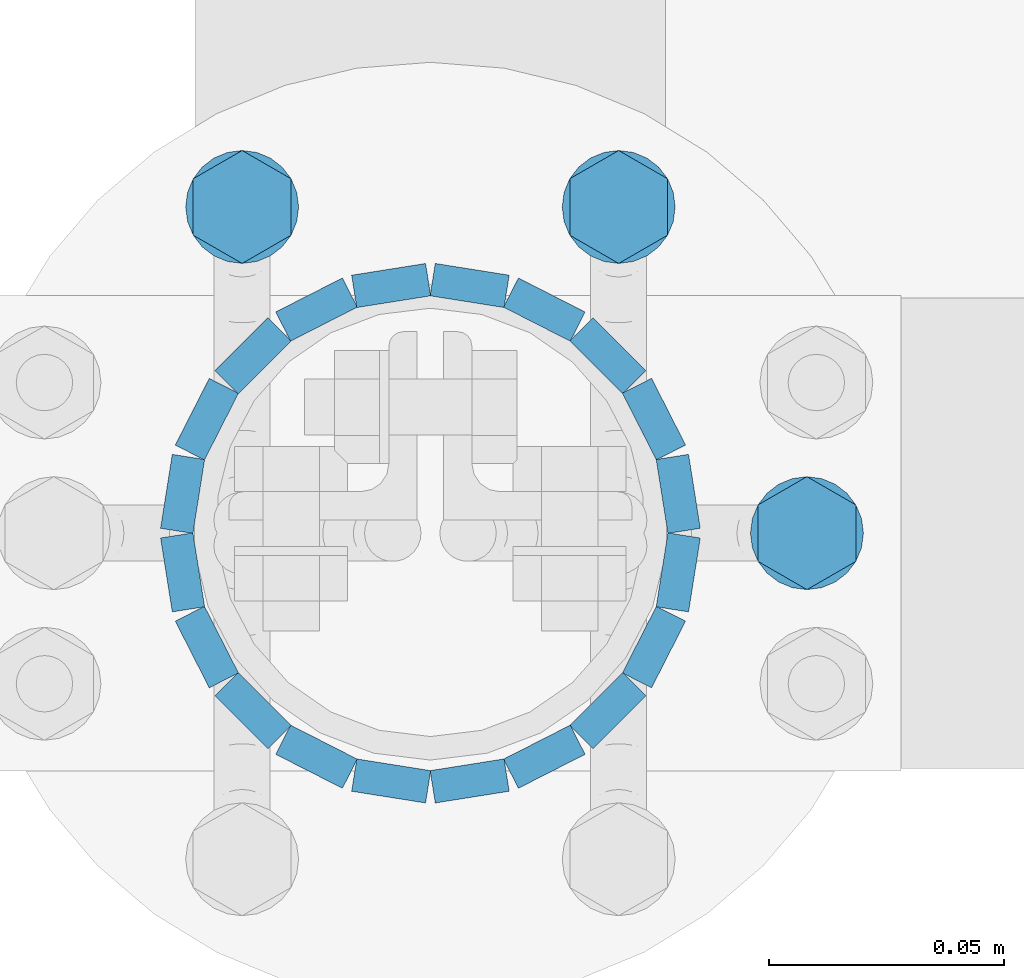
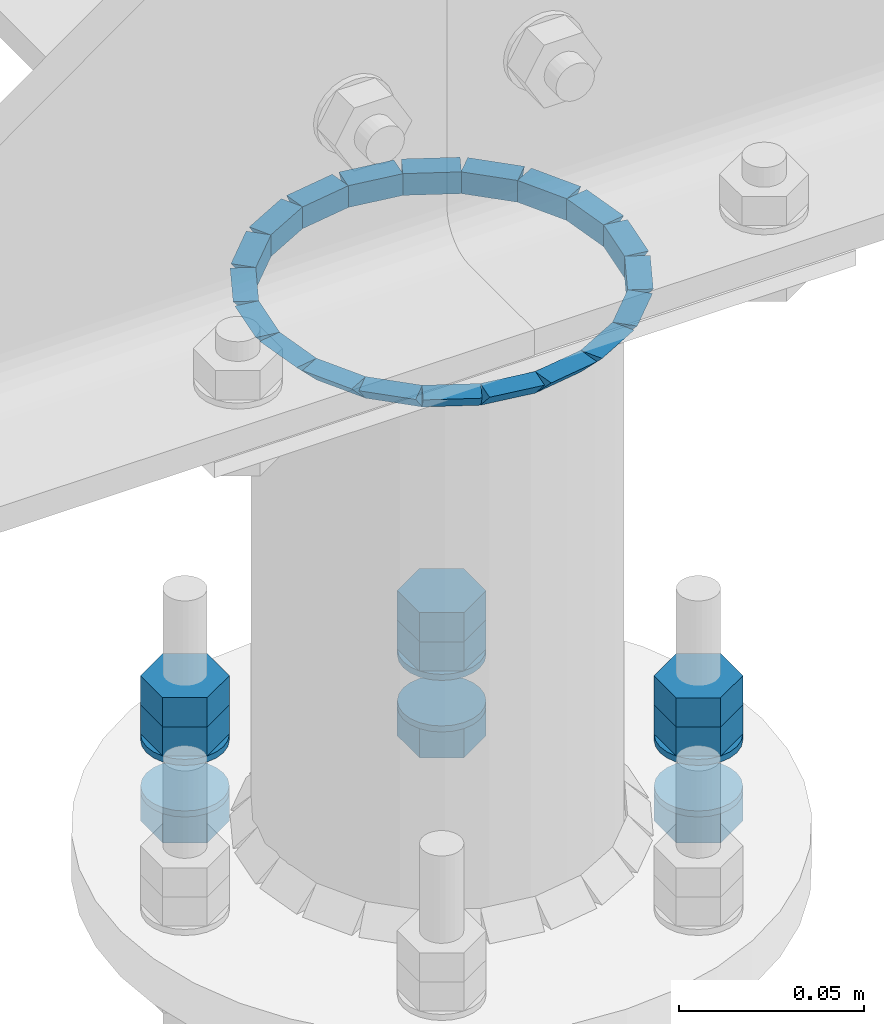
# One storey, part 41 of 84: 40 fasteners, 15 mechanical fasteners.
"""IFC4 building model written with IfcOpenShell, lengths in metres."""

import ifcopenshell
import ifcopenshell.guid

model = None  # the IFC model being written
_history = None  # IfcOwnerHistory: only IFC2X3 demands one
_inside = {}  # id of a spatial element -> (the spatial element, [elements in it])
_under = {}  # id of a project, library or spatial element -> (it, [spatial elements below it])
_declared = {}  # id of a project -> (the project, [libraries it declares])
_typed = {}  # id of a type object -> (the type object, [elements of that type])
_made_of = {}  # id of a material, layer set ... -> (it, [elements and type objects made of it])


def new_model(schema):
    """Start an empty IFC model of exactly this schema.

    Asked for "IFC4X3", IfcOpenShell would pick the latest addendum, in which some entities
    have other attributes; the version numbers below select the first issue.
    IFC2X3 requires an IfcOwnerHistory on every rooted entity: one is made here for all.
    """
    global model, _history
    if schema == "IFC4X3":
        model = ifcopenshell.file(schema_version=(4, 3, 0, 0))
    else:
        model = ifcopenshell.file(schema=schema)
    _inside.clear()
    _under.clear()
    _declared.clear()
    _typed.clear()
    _made_of.clear()
    _history = None
    if model.schema == "IFC2X3":
        org = make("IfcOrganization", Name="unknown")
        user = make(
            "IfcPersonAndOrganization",
            ThePerson=make("IfcPerson", FamilyName="unknown"),
            TheOrganization=org,
        )
        app = make(
            "IfcApplication",
            ApplicationDeveloper=org,
            Version="unknown",
            ApplicationFullName="unknown",
            ApplicationIdentifier="unknown",
        )
        _history = make(
            "IfcOwnerHistory",
            OwningUser=user,
            OwningApplication=app,
            ChangeAction="ADDED",
            CreationDate=0,
        )
    return model


def make(cls, **values):
    """One entity of the class cls with the attributes given. An attribute that is None is left unset."""
    return model.create_entity(
        cls, **{name: value for name, value in values.items() if value is not None}
    )


def rooted(cls, **values):
    """An entity with a GlobalId (a new one), such as an element, a storey or a relation."""
    return make(cls, GlobalId=ifcopenshell.guid.new(), OwnerHistory=_history, **values)


def si_unit(unit_type, name, prefix=None):
    """IfcSIUnit, for example si_unit("LENGTHUNIT", "METRE", prefix="MILLI")."""
    return make("IfcSIUnit", UnitType=unit_type, Prefix=prefix, Name=name)


def assignment(units):
    """IfcUnitAssignment: the units of a project."""
    return None if units is None else make("IfcUnitAssignment", Units=units)


def point(xyz):
    """IfcCartesianPoint."""
    return None if xyz is None else make("IfcCartesianPoint", Coordinates=xyz)


def direction(xyz):
    """IfcDirection."""
    return None if xyz is None else make("IfcDirection", DirectionRatios=xyz)


def frame(location, z_axis=None, x_axis=None):
    """IfcAxis2Placement3D, a coordinate frame: its origin and axes. An axis left out is left unset."""
    return make(
        "IfcAxis2Placement3D",
        Location=point(location),
        Axis=direction(z_axis),
        RefDirection=direction(x_axis),
    )


def origin_with_axes():
    """The frame at (0, 0, 0) with the z axis (0, 0, 1) and the x axis (1, 0, 0) written out."""
    return frame((0.0, 0.0, 0.0), z_axis=(0.0, 0.0, 1.0), x_axis=(1.0, 0.0, 0.0))


def place(relative_to, where):
    """IfcLocalPlacement: puts the frame where relative to a parent placement (None: the world)."""
    return make(
        "IfcLocalPlacement", PlacementRelTo=relative_to, RelativePlacement=where
    )


def context(
    kind, dimensions, precision=None, world=None, true_north=None, identifier=None
):
    """IfcGeometricRepresentationContext, for example the 3D "Model" context."""
    return make(
        "IfcGeometricRepresentationContext",
        ContextIdentifier=identifier,
        ContextType=kind,
        CoordinateSpaceDimension=dimensions,
        Precision=precision,
        WorldCoordinateSystem=world,
        TrueNorth=true_north,
    )


def project(units=None, contexts=None):
    """IfcProject with its units and contexts."""
    return rooted(
        "IfcProject",
        Name="project",
        RepresentationContexts=contexts,
        UnitsInContext=assignment(units),
    )


def spatial(cls, under=None, at=None, **own):
    """A site, building, storey or space (cls), placed at a placement, below another one or the project."""
    s = rooted(cls, ObjectPlacement=at, **own)
    if under is not None:
        _under.setdefault(under.id(), (under, []))[1].append(s)
    return s


def polyline(points):
    """IfcPolyline through the points."""
    return make("IfcPolyline", Points=[point(p) for p in points])


def outline(outer, holes=None, kind="AREA"):
    """IfcArbitraryClosedProfileDef: a profile drawn as a closed curve; with holes, ...WithVoids."""
    if holes is None:
        return make("IfcArbitraryClosedProfileDef", ProfileType=kind, OuterCurve=outer)
    return make(
        "IfcArbitraryProfileDefWithVoids",
        ProfileType=kind,
        OuterCurve=outer,
        InnerCurves=holes,
    )


def extrude(swept, where, along, depth):
    """IfcExtrudedAreaSolid: the profile swept, set in the frame where, extruded along a direction by depth."""
    return make(
        "IfcExtrudedAreaSolid",
        SweptArea=swept,
        Position=where,
        ExtrudedDirection=direction(along),
        Depth=depth,
    )


def shape(context_of_items, identifier, shape_type, items):
    """IfcShapeRepresentation: the items that make up one representation, for example the "Body"."""
    return make(
        "IfcShapeRepresentation",
        ContextOfItems=context_of_items,
        RepresentationIdentifier=identifier,
        RepresentationType=shape_type,
        Items=items,
    )


def made_of(thing, what):
    """Note that an element or type object is made of a material, layer set ...; save() writes the relation."""
    if what is not None:
        _made_of.setdefault(what.id(), (what, []))[1].append(thing)
    return thing


def type_object(cls, material=None, **own):
    """A type object (cls), such as IfcWallType, which elements share."""
    return made_of(rooted(cls, **own), material)


def element(
    cls,
    number,
    at=None,
    inside=None,
    cuts=None,
    type_object=None,
    material=None,
    context=None,
    identifier="Body",
    shape_type=None,
    held_by="IfcProductDefinitionShape",
    body=None,
    shapes=None,
    **own,
):
    """One element of the class cls, such as IfcWall. Its Tag is "e" and its number.

    at: its placement. inside: the storey or other place that contains it. cuts: it is an
    opening in that element (IfcRelVoidsElement). A single representation is given by context,
    identifier, shape_type and body (its items); several are given by shapes. held_by: the class
    of the entity that holds the representations. save() writes the other relations.
    """
    e = rooted(cls, Tag="e%d" % number, ObjectPlacement=at, **own)
    if body is not None:
        shapes = [shape(context, identifier, shape_type, body)]
    if shapes is not None:
        e.Representation = make(held_by, Representations=shapes)
    if inside is not None:
        _inside.setdefault(inside.id(), (inside, []))[1].append(e)
    if cuts is not None:
        rooted(
            "IfcRelVoidsElement", RelatingBuildingElement=cuts, RelatedOpeningElement=e
        )
    if type_object is not None:
        _typed.setdefault(type_object.id(), (type_object, []))[1].append(e)
    return made_of(e, material)


def aggregate(whole, parts):
    """IfcRelAggregates: a whole, such as a stair, and the parts it consists of."""
    return rooted("IfcRelAggregates", RelatingObject=whole, RelatedObjects=parts)


def save(model, path):
    """Write the relations noted so far, then the file.

    IfcRelAggregates (storeys below a building ...), IfcRelContainedInSpatialStructure (elements
    in a storey), IfcRelDefinesByType, IfcRelAssociatesMaterial and IfcRelDeclares: one each for
    every whole, place, type object, material and project.
    """
    for whole, parts in _under.values():
        aggregate(whole, parts)
    for where, things in _inside.values():
        rooted(
            "IfcRelContainedInSpatialStructure",
            RelatedElements=things,
            RelatingStructure=where,
        )
    for kind, things in _typed.values():
        rooted("IfcRelDefinesByType", RelatedObjects=things, RelatingType=kind)
    for what, things in _made_of.values():
        rooted("IfcRelAssociatesMaterial", RelatedObjects=things, RelatingMaterial=what)
    for by, libraries in _declared.values():
        rooted("IfcRelDeclares", RelatingContext=by, RelatedDefinitions=libraries)
    model.write(path)


model = new_model("IFC4")

# Units and contexts
model_context = context("Model", 3, precision=1e-05, world=origin_with_axes())
ifc_project = project(units=[si_unit("LENGTHUNIT", "METRE"), si_unit("AREAUNIT", "SQUARE_METRE"), si_unit("VOLUMEUNIT", "CUBIC_METRE"), si_unit("MASSUNIT", "GRAM", prefix="KILO"), si_unit("TIMEUNIT", "SECOND"), si_unit("PLANEANGLEUNIT", "RADIAN"), si_unit("SOLIDANGLEUNIT", "STERADIAN"), si_unit("THERMODYNAMICTEMPERATUREUNIT", "DEGREE_CELSIUS")], contexts=[model_context])

# Site, building, storey
placement_1 = place(None, origin_with_axes())
site = spatial("IfcSite", under=ifc_project, at=placement_1, Name="Italia", CompositionType="ELEMENT")
building = spatial("IfcBuilding", under=site, at=placement_1, Name="Tettoia", CompositionType="ELEMENT")
storey_placement = place(None, frame((0.0, 0.0, 4.199999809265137), z_axis=(0.0, 0.0, 1.0), x_axis=(1.0, 0.0, 0.0)))
storey = spatial("IfcBuildingStorey", under=building, at=storey_placement, Name="Storey 1", CompositionType="ELEMENT", Elevation=4.199999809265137)

# Mechanical fasteners
mechanical_fastener_type_1 = type_object("IfcMechanicalFastenerType", Name="Collegamento -007_0107", PredefinedType="BOLT")
placement_2 = place(placement_1, origin_with_axes())
mechanical_fastener_1_placement = place(placement_2, origin_with_axes())
element("IfcMechanicalFastener", 1, at=mechanical_fastener_1_placement, inside=storey, type_object=mechanical_fastener_type_1, Name="Collegamento -007_0107", NominalDiameter=0.0119991, context=model_context, shape_type="SweptSolid", body=[
    extrude(outline(polyline([(0.0, 0.0), (-0.0119991, 0.0), (-0.0179996, 0.0103923), (-0.0119991, 0.0207846), (0.0, 0.0207846), (0.00600052, 0.0103923), (0.0, 0.0)])), frame((0.190392, 9.976, 4.017), z_axis=(0.0, 0.0, 1.0), x_axis=(0.0, 1.0, 0.0)), (0.0, 0.0, 1.0), 0.00959969),
])
mechanical_fastener_type_2 = type_object("IfcMechanicalFastenerType", Name="Collegamento -007_0107", PredefinedType="BOLT")
mechanical_fastener_2_placement = place(placement_2, origin_with_axes())
element("IfcMechanicalFastener", 2, at=mechanical_fastener_2_placement, inside=storey, type_object=mechanical_fastener_type_2, Name="Collegamento -007_0107", NominalDiameter=0.0119991, context=model_context, shape_type="SweptSolid", body=[
    extrude(outline(polyline([(0.0, 0.0), (-0.0119991, 0.0), (-0.0179996, 0.0103923), (-0.0119991, 0.0207846), (0.0, 0.0207846), (0.00600052, 0.0103923), (0.0, 0.0)])), frame((0.190392, 9.976, 4.0266), z_axis=(0.0, 0.0, 1.0), x_axis=(0.0, 1.0, 0.0)), (0.0, 0.0, 1.0), 0.00960016),
])
mechanical_fastener_type_3 = type_object("IfcMechanicalFastenerType", Name="Collegamento -007_0107", PredefinedType="BOLT")
mechanical_fastener_3_placement = place(placement_2, origin_with_axes())
element("IfcMechanicalFastener", 3, at=mechanical_fastener_3_placement, inside=storey, type_object=mechanical_fastener_type_3, Name="Collegamento -007_0107", NominalDiameter=0.0119991, context=model_context, shape_type="SweptSolid", body=[
    extrude(outline(polyline([(0.0, 0.0), (-0.0119991, 0.0), (-0.0179996, 0.0103923), (-0.0119991, 0.0207846), (0.0, 0.0207846), (0.00600052, 0.0103923), (0.0, 0.0)])), frame((0.190392, 9.976, 3.9884), z_axis=(0.0, 0.0, 1.0), x_axis=(0.0, 1.0, 0.0)), (0.0, 0.0, 1.0), 0.00959992),
])
mechanical_fastener_type_4 = type_object("IfcMechanicalFastenerType", Name="Collegamento -007_0107", PredefinedType="BOLT")
mechanical_fastener_4_placement = place(placement_2, origin_with_axes())
element("IfcMechanicalFastener", 4, at=mechanical_fastener_4_placement, inside=storey, type_object=mechanical_fastener_type_4, Name="Collegamento -007_0107", NominalDiameter=0.024, context=model_context, shape_type="SweptSolid", body=[
    extrude(outline(polyline([(0.0, 0.0), (-0.000409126, -0.00310583), (-0.00160789, -0.006), (-0.00351524, -0.00848529), (-0.00600052, -0.0103923), (-0.00889397, -0.0115911), (-0.0120001, -0.012), (-0.0151062, -0.0115911), (-0.0179996, -0.0103923), (-0.0204849, -0.00848529), (-0.0223923, -0.006), (-0.023591, -0.00310583), (-0.0240002, 0.0), (-0.023591, 0.00310583), (-0.0223923, 0.006), (-0.0204849, 0.00848529), (-0.0179996, 0.0103923), (-0.0151062, 0.0115911), (-0.0120001, 0.012), (-0.00889397, 0.0115911), (-0.00600052, 0.0103923), (-0.00351524, 0.00848527), (-0.00160789, 0.006), (-0.000409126, 0.00310582), (0.0, 0.0)])), frame((0.18, 9.982, 4.015), z_axis=(0.0, 0.0, 1.0), x_axis=(0.0, 1.0, 0.0)), (0.0, 0.0, 1.0), 0.00200033),
])
mechanical_fastener_type_5 = type_object("IfcMechanicalFastenerType", Name="Collegamento -007_0107", PredefinedType="BOLT")
mechanical_fastener_5_placement = place(placement_2, origin_with_axes())
element("IfcMechanicalFastener", 5, at=mechanical_fastener_5_placement, inside=storey, type_object=mechanical_fastener_type_5, Name="Collegamento -007_0107", NominalDiameter=0.024, context=model_context, shape_type="SweptSolid", body=[
    extrude(outline(polyline([(0.0, 0.0), (-0.000409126, -0.00310583), (-0.00160789, -0.006), (-0.00351524, -0.00848529), (-0.00600052, -0.0103923), (-0.00889397, -0.0115911), (-0.0120001, -0.012), (-0.0151062, -0.0115911), (-0.0179996, -0.0103923), (-0.0204849, -0.00848529), (-0.0223923, -0.006), (-0.023591, -0.00310583), (-0.0240002, 0.0), (-0.023591, 0.00310583), (-0.0223923, 0.006), (-0.0204849, 0.00848529), (-0.0179996, 0.0103923), (-0.0151062, 0.0115911), (-0.0120001, 0.012), (-0.00889397, 0.0115911), (-0.00600052, 0.0103923), (-0.00351524, 0.00848527), (-0.00160789, 0.006), (-0.000409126, 0.00310582), (0.0, 0.0)])), frame((0.18, 9.982, 3.998), z_axis=(0.0, 0.0, 1.0), x_axis=(0.0, 1.0, 0.0)), (0.0, 0.0, 1.0), 0.00200009),
])
mechanical_fastener_type_6 = type_object("IfcMechanicalFastenerType", Name="Collegamento -007_0107", PredefinedType="BOLT")
mechanical_fastener_6_placement = place(placement_2, origin_with_axes())
element("IfcMechanicalFastener", 6, at=mechanical_fastener_6_placement, inside=storey, type_object=mechanical_fastener_type_6, Name="Collegamento -007_0107", NominalDiameter=0.0119998, context=model_context, shape_type="SweptSolid", body=[
    extrude(outline(polyline([(0.0, 0.0), (-0.0120001, 0.0), (-0.0179996, 0.0103923), (-0.0120001, 0.0207846), (0.0, 0.0207846), (0.00599957, 0.0103923), (0.0, 0.0)])), frame((0.150392, 10.0453, 4.017), z_axis=(0.0, 0.0, 1.0), x_axis=(0.0, 1.0, 0.0)), (0.0, 0.0, 1.0), 0.00959969),
])
mechanical_fastener_type_7 = type_object("IfcMechanicalFastenerType", Name="Collegamento -007_0107", PredefinedType="BOLT")
mechanical_fastener_7_placement = place(placement_2, origin_with_axes())
element("IfcMechanicalFastener", 7, at=mechanical_fastener_7_placement, inside=storey, type_object=mechanical_fastener_type_7, Name="Collegamento -007_0107", NominalDiameter=0.0119998, context=model_context, shape_type="SweptSolid", body=[
    extrude(outline(polyline([(0.0, 0.0), (-0.0120001, 0.0), (-0.0179996, 0.0103923), (-0.0120001, 0.0207846), (0.0, 0.0207846), (0.00599957, 0.0103923), (0.0, 0.0)])), frame((0.150392, 10.0453, 4.0266), z_axis=(0.0, 0.0, 1.0), x_axis=(0.0, 1.0, 0.0)), (0.0, 0.0, 1.0), 0.00960016),
])
mechanical_fastener_type_8 = type_object("IfcMechanicalFastenerType", Name="Collegamento -007_0107", PredefinedType="BOLT")
mechanical_fastener_8_placement = place(placement_2, origin_with_axes())
element("IfcMechanicalFastener", 8, at=mechanical_fastener_8_placement, inside=storey, type_object=mechanical_fastener_type_8, Name="Collegamento -007_0107", NominalDiameter=0.0119998, context=model_context, shape_type="SweptSolid", body=[
    extrude(outline(polyline([(0.0, 0.0), (-0.0120001, 0.0), (-0.0179996, 0.0103923), (-0.0120001, 0.0207846), (0.0, 0.0207846), (0.00599957, 0.0103923), (0.0, 0.0)])), frame((0.150392, 10.0453, 3.9884), z_axis=(0.0, 0.0, 1.0), x_axis=(0.0, 1.0, 0.0)), (0.0, 0.0, 1.0), 0.00959992),
])
mechanical_fastener_type_9 = type_object("IfcMechanicalFastenerType", Name="Collegamento -007_0107", PredefinedType="BOLT")
mechanical_fastener_9_placement = place(placement_2, origin_with_axes())
element("IfcMechanicalFastener", 9, at=mechanical_fastener_9_placement, inside=storey, type_object=mechanical_fastener_type_9, Name="Collegamento -007_0107", NominalDiameter=0.024, context=model_context, shape_type="SweptSolid", body=[
    extrude(outline(polyline([(0.0, 0.0), (-0.000409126, -0.00310583), (-0.00160789, -0.006), (-0.00351524, -0.00848529), (-0.00600052, -0.0103923), (-0.00889397, -0.0115911), (-0.0120001, -0.012), (-0.0151062, -0.0115911), (-0.0179996, -0.0103923), (-0.0204849, -0.00848529), (-0.0223923, -0.006), (-0.023591, -0.00310583), (-0.0240002, 0.0), (-0.023591, 0.00310583), (-0.0223923, 0.006), (-0.0204849, 0.00848529), (-0.0179996, 0.0103923), (-0.0151062, 0.0115911), (-0.0120001, 0.012), (-0.00889397, 0.0115911), (-0.00600052, 0.0103923), (-0.00351524, 0.00848527), (-0.00160789, 0.006), (-0.000409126, 0.00310582), (0.0, 0.0)])), frame((0.14, 10.0513, 4.015), z_axis=(0.0, 0.0, 1.0), x_axis=(0.0, 1.0, 0.0)), (0.0, 0.0, 1.0), 0.00200033),
])
mechanical_fastener_type_10 = type_object("IfcMechanicalFastenerType", Name="Collegamento -007_0107", PredefinedType="BOLT")
mechanical_fastener_10_placement = place(placement_2, origin_with_axes())
element("IfcMechanicalFastener", 10, at=mechanical_fastener_10_placement, inside=storey, type_object=mechanical_fastener_type_10, Name="Collegamento -007_0107", NominalDiameter=0.024, context=model_context, shape_type="SweptSolid", body=[
    extrude(outline(polyline([(0.0, 0.0), (-0.000409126, -0.00310583), (-0.00160789, -0.006), (-0.00351524, -0.00848529), (-0.00600052, -0.0103923), (-0.00889397, -0.0115911), (-0.0120001, -0.012), (-0.0151062, -0.0115911), (-0.0179996, -0.0103923), (-0.0204849, -0.00848529), (-0.0223923, -0.006), (-0.023591, -0.00310583), (-0.0240002, 0.0), (-0.023591, 0.00310583), (-0.0223923, 0.006), (-0.0204849, 0.00848529), (-0.0179996, 0.0103923), (-0.0151062, 0.0115911), (-0.0120001, 0.012), (-0.00889397, 0.0115911), (-0.00600052, 0.0103923), (-0.00351524, 0.00848527), (-0.00160789, 0.006), (-0.000409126, 0.00310582), (0.0, 0.0)])), frame((0.14, 10.0513, 3.998), z_axis=(0.0, 0.0, 1.0), x_axis=(0.0, 1.0, 0.0)), (0.0, 0.0, 1.0), 0.00200009),
])
mechanical_fastener_type_11 = type_object("IfcMechanicalFastenerType", Name="Collegamento -007_0107", PredefinedType="BOLT")
mechanical_fastener_11_placement = place(placement_2, origin_with_axes())
element("IfcMechanicalFastener", 11, at=mechanical_fastener_11_placement, inside=storey, type_object=mechanical_fastener_type_11, Name="Collegamento -007_0107", NominalDiameter=0.0119998, context=model_context, shape_type="SweptSolid", body=[
    extrude(outline(polyline([(0.0, 0.0), (-0.0120001, 0.0), (-0.0179996, 0.0103923), (-0.0120001, 0.0207846), (0.0, 0.0207846), (0.00599957, 0.0103923), (0.0, 0.0)])), frame((0.0703923, 10.0453, 4.017), z_axis=(0.0, 0.0, 1.0), x_axis=(0.0, 1.0, 0.0)), (0.0, 0.0, 1.0), 0.00959969),
])
mechanical_fastener_type_12 = type_object("IfcMechanicalFastenerType", Name="Collegamento -007_0107", PredefinedType="BOLT")
mechanical_fastener_12_placement = place(placement_2, origin_with_axes())
element("IfcMechanicalFastener", 12, at=mechanical_fastener_12_placement, inside=storey, type_object=mechanical_fastener_type_12, Name="Collegamento -007_0107", NominalDiameter=0.0119998, context=model_context, shape_type="SweptSolid", body=[
    extrude(outline(polyline([(0.0, 0.0), (-0.0120001, 0.0), (-0.0179996, 0.0103923), (-0.0120001, 0.0207846), (0.0, 0.0207846), (0.00599957, 0.0103923), (0.0, 0.0)])), frame((0.0703923, 10.0453, 4.0266), z_axis=(0.0, 0.0, 1.0), x_axis=(0.0, 1.0, 0.0)), (0.0, 0.0, 1.0), 0.00960016),
])
mechanical_fastener_type_13 = type_object("IfcMechanicalFastenerType", Name="Collegamento -007_0107", PredefinedType="BOLT")
mechanical_fastener_13_placement = place(placement_2, origin_with_axes())
element("IfcMechanicalFastener", 13, at=mechanical_fastener_13_placement, inside=storey, type_object=mechanical_fastener_type_13, Name="Collegamento -007_0107", NominalDiameter=0.0119998, context=model_context, shape_type="SweptSolid", body=[
    extrude(outline(polyline([(0.0, 0.0), (-0.0120001, 0.0), (-0.0179996, 0.0103923), (-0.0120001, 0.0207846), (0.0, 0.0207846), (0.00599957, 0.0103923), (0.0, 0.0)])), frame((0.0703923, 10.0453, 3.9884), z_axis=(0.0, 0.0, 1.0), x_axis=(0.0, 1.0, 0.0)), (0.0, 0.0, 1.0), 0.00959992),
])
mechanical_fastener_type_14 = type_object("IfcMechanicalFastenerType", Name="Collegamento -007_0107", PredefinedType="BOLT")
mechanical_fastener_14_placement = place(placement_2, origin_with_axes())
element("IfcMechanicalFastener", 14, at=mechanical_fastener_14_placement, inside=storey, type_object=mechanical_fastener_type_14, Name="Collegamento -007_0107", NominalDiameter=0.024, context=model_context, shape_type="SweptSolid", body=[
    extrude(outline(polyline([(0.0, 0.0), (-0.000409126, -0.00310583), (-0.00160789, -0.006), (-0.00351524, -0.00848528), (-0.00600052, -0.0103923), (-0.00889397, -0.0115911), (-0.0120001, -0.012), (-0.0151062, -0.0115911), (-0.0179996, -0.0103923), (-0.0204849, -0.00848528), (-0.0223923, -0.006), (-0.023591, -0.00310583), (-0.0240002, 0.0), (-0.023591, 0.00310583), (-0.0223923, 0.006), (-0.0204849, 0.00848528), (-0.0179996, 0.0103923), (-0.0151062, 0.0115911), (-0.0120001, 0.012), (-0.00889397, 0.0115911), (-0.00600052, 0.0103923), (-0.00351524, 0.00848528), (-0.00160789, 0.006), (-0.000409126, 0.00310583), (0.0, 0.0)])), frame((0.06, 10.0513, 4.015), z_axis=(0.0, 0.0, 1.0), x_axis=(0.0, 1.0, 0.0)), (0.0, 0.0, 1.0), 0.00200033),
])
mechanical_fastener_type_15 = type_object("IfcMechanicalFastenerType", Name="Collegamento -007_0107", PredefinedType="BOLT")
mechanical_fastener_15_placement = place(placement_2, origin_with_axes())
element("IfcMechanicalFastener", 15, at=mechanical_fastener_15_placement, inside=storey, type_object=mechanical_fastener_type_15, Name="Collegamento -007_0107", NominalDiameter=0.024, context=model_context, shape_type="SweptSolid", body=[
    extrude(outline(polyline([(0.0, 0.0), (-0.000409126, -0.00310583), (-0.00160789, -0.006), (-0.00351524, -0.00848528), (-0.00600052, -0.0103923), (-0.00889397, -0.0115911), (-0.0120001, -0.012), (-0.0151062, -0.0115911), (-0.0179996, -0.0103923), (-0.0204849, -0.00848528), (-0.0223923, -0.006), (-0.023591, -0.00310583), (-0.0240002, 0.0), (-0.023591, 0.00310583), (-0.0223923, 0.006), (-0.0204849, 0.00848528), (-0.0179996, 0.0103923), (-0.0151062, 0.0115911), (-0.0120001, 0.012), (-0.00889397, 0.0115911), (-0.00600052, 0.0103923), (-0.00351524, 0.00848528), (-0.00160789, 0.006), (-0.000409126, 0.00310583), (0.0, 0.0)])), frame((0.06, 10.0513, 3.998), z_axis=(0.0, 0.0, 1.0), x_axis=(0.0, 1.0, 0.0)), (0.0, 0.0, 1.0), 0.00200009),
])

# Fasteners
fastener_type_1 = type_object("IfcFastenerType", Name="Collegamento 0107_-007", PredefinedType="WELD")
fastener_1_placement = place(placement_2, origin_with_axes())
element("IfcFastener", 16, at=fastener_1_placement, inside=storey, type_object=fastener_type_1, Name="Collegamento 0107_-007", context=model_context, shape_type="SweptSolid", body=[
    extrude(outline(polyline([(0.0, 0.0), (-0.00695896, -0.00717354), (-0.00695896, 0.0), (0.0, 0.0)])), frame((0.101031, 10.0273, 4.19505), z_axis=(0.98768013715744, -0.156486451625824, 0.0), x_axis=(0.156486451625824, 0.98768013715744, 0.0)), (0.0, 0.0, 1.0), 0.0159),
])
fastener_type_2 = type_object("IfcFastenerType", Name="Collegamento 0107_-007", PredefinedType="WELD")
fastener_2_placement = place(placement_2, origin_with_axes())
element("IfcFastener", 17, at=fastener_2_placement, inside=storey, type_object=fastener_type_2, Name="Collegamento 0107_-007", context=model_context, shape_type="SweptSolid", body=[
    extrude(outline(polyline([(0.0, 0.0), (-0.00695896, -0.00717306), (-0.00695896, 0.0), (0.0, 0.0)])), frame((0.118697, 10.0242, 4.19505), z_axis=(0.8910071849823, -0.453989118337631, 0.0), x_axis=(0.453989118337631, 0.8910071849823, 0.0)), (0.0, 0.0, 1.0), 0.0158999),
])
fastener_type_3 = type_object("IfcFastenerType", Name="Collegamento 0107_-007", PredefinedType="WELD")
fastener_3_placement = place(placement_2, origin_with_axes())
element("IfcFastener", 18, at=fastener_3_placement, inside=storey, type_object=fastener_type_3, Name="Collegamento 0107_-007", context=model_context, shape_type="SweptSolid", body=[
    extrude(outline(polyline([(0.0, 0.0), (-0.00695753, -0.00717306), (-0.00695753, 0.0), (0.0, 0.0)])), frame((0.134533, 10.0158, 4.19505), z_axis=(0.70710813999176, -0.707105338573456, 0.0), x_axis=(0.707105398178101, 0.707108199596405, 0.0)), (0.0, 0.0, 1.0), 0.0158998),
])
fastener_type_4 = type_object("IfcFastenerType", Name="Collegamento 0107_-007", PredefinedType="WELD")
fastener_4_placement = place(placement_2, origin_with_axes())
element("IfcFastener", 19, at=fastener_4_placement, inside=storey, type_object=fastener_type_4, Name="Collegamento 0107_-007", context=model_context, shape_type="SweptSolid", body=[
    extrude(outline(polyline([(0.0, 0.0), (-0.00695801, -0.00717306), (-0.00695801, 0.0), (0.0, 0.0)])), frame((0.146988, 10.0029, 4.19505), z_axis=(0.453992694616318, -0.891005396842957, 0.0), x_axis=(0.891005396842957, 0.453992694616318, 0.0)), (0.0, 0.0, 1.0), 0.0158998),
])
fastener_type_5 = type_object("IfcFastenerType", Name="Collegamento 0107_-007", PredefinedType="WELD")
fastener_5_placement = place(placement_2, origin_with_axes())
element("IfcFastener", 20, at=fastener_5_placement, inside=storey, type_object=fastener_type_5, Name="Collegamento 0107_-007", context=model_context, shape_type="SweptSolid", body=[
    extrude(outline(polyline([(0.0, 0.0), (-0.00695813, -0.00717306), (-0.00695813, 0.0), (0.0, 0.0)])), frame((0.154844, 9.98674, 4.19505), z_axis=(0.156434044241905, -0.987688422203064, 0.0), x_axis=(0.987688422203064, 0.156434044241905, 0.0)), (0.0, 0.0, 1.0), 0.0158999),
])
fastener_type_6 = type_object("IfcFastenerType", Name="Collegamento 0107_-007", PredefinedType="WELD")
fastener_6_placement = place(placement_2, origin_with_axes())
element("IfcFastener", 21, at=fastener_6_placement, inside=storey, type_object=fastener_type_6, Name="Collegamento 0107_-007", context=model_context, shape_type="SweptSolid", body=[
    extrude(outline(polyline([(0.0, 0.0), (-0.00695813, -0.00717306), (-0.00695813, 0.0), (0.0, 0.0)])), frame((0.157331, 9.96897, 4.19505), z_axis=(-0.156434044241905, -0.987688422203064, 0.0), x_axis=(0.987688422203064, -0.156434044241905, 0.0)), (0.0, 0.0, 1.0), 0.0158999),
])
fastener_type_7 = type_object("IfcFastenerType", Name="Collegamento 0107_-007", PredefinedType="WELD")
fastener_7_placement = place(placement_2, origin_with_axes())
element("IfcFastener", 22, at=fastener_7_placement, inside=storey, type_object=fastener_type_7, Name="Collegamento 0107_-007", context=model_context, shape_type="SweptSolid", body=[
    extrude(outline(polyline([(0.0, 0.0), (-0.00695896, -0.00717306), (-0.00695896, 0.0), (0.0, 0.0)])), frame((0.154206, 9.9513, 4.19505), z_axis=(-0.45399197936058, -0.89100581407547, 0.0), x_axis=(0.891005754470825, -0.453991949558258, 0.0)), (0.0, 0.0, 1.0), 0.0158998),
])
fastener_type_8 = type_object("IfcFastenerType", Name="Collegamento 0107_-007", PredefinedType="WELD")
fastener_8_placement = place(placement_2, origin_with_axes())
element("IfcFastener", 23, at=fastener_8_placement, inside=storey, type_object=fastener_type_8, Name="Collegamento 0107_-007", context=model_context, shape_type="SweptSolid", body=[
    extrude(outline(polyline([(0.0, 0.0), (-0.00695801, -0.00717306), (-0.00695801, 0.0), (0.0, 0.0)])), frame((0.145776, 9.93547, 4.19505), z_axis=(-0.707109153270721, -0.707104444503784, 0.0), x_axis=(0.707104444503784, -0.707109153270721, 0.0)), (0.0, 0.0, 1.0), 0.0158999),
])
fastener_type_9 = type_object("IfcFastenerType", Name="Collegamento 0107_-007", PredefinedType="WELD")
fastener_9_placement = place(placement_2, origin_with_axes())
element("IfcFastener", 24, at=fastener_9_placement, inside=storey, type_object=fastener_type_9, Name="Collegamento 0107_-007", context=model_context, shape_type="SweptSolid", body=[
    extrude(outline(polyline([(0.0, 0.0), (-0.00695896, -0.00717306), (-0.00695896, 0.0), (0.0, 0.0)])), frame((0.132864, 9.92301, 4.19505), z_axis=(-0.891007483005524, -0.453988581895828, 0.0), x_axis=(0.453988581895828, -0.891007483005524, 0.0)), (0.0, 0.0, 1.0), 0.0158999),
])
fastener_type_10 = type_object("IfcFastenerType", Name="Collegamento 0107_-007", PredefinedType="WELD")
fastener_10_placement = place(placement_2, origin_with_axes())
element("IfcFastener", 25, at=fastener_10_placement, inside=storey, type_object=fastener_type_10, Name="Collegamento 0107_-007", context=model_context, shape_type="SweptSolid", body=[
    extrude(outline(polyline([(0.0, 0.0), (-0.00695801, -0.00717306), (-0.00695801, 0.0), (0.0, 0.0)])), frame((0.116736, 9.91516, 4.19505), z_axis=(-0.987680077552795, -0.156486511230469, 0.0), x_axis=(0.156486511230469, -0.987680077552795, 0.0)), (0.0, 0.0, 1.0), 0.0159),
])
fastener_type_11 = type_object("IfcFastenerType", Name="Collegamento 0107_-007", PredefinedType="WELD")
fastener_11_placement = place(placement_2, origin_with_axes())
element("IfcFastener", 26, at=fastener_11_placement, inside=storey, type_object=fastener_type_11, Name="Collegamento 0107_-007", context=model_context, shape_type="SweptSolid", body=[
    extrude(outline(polyline([(0.0, 0.0), (-0.00695801, -0.00717354), (-0.00695801, 0.0), (0.0, 0.0)])), frame((0.0989686, 9.91267, 4.19505), z_axis=(-0.98768013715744, 0.156486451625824, 0.0), x_axis=(-0.156486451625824, -0.98768013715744, 0.0)), (0.0, 0.0, 1.0), 0.0159),
])
fastener_type_12 = type_object("IfcFastenerType", Name="Collegamento 0107_-007", PredefinedType="WELD")
fastener_12_placement = place(placement_2, origin_with_axes())
element("IfcFastener", 27, at=fastener_12_placement, inside=storey, type_object=fastener_type_12, Name="Collegamento 0107_-007", context=model_context, shape_type="SweptSolid", body=[
    extrude(outline(polyline([(0.0, 0.0), (-0.00695801, -0.00717354), (-0.00695801, 0.0), (0.0, 0.0)])), frame((0.0813031, 9.91579, 4.19505), z_axis=(-0.891007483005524, 0.453988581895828, 0.0), x_axis=(-0.453988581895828, -0.891007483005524, 0.0)), (0.0, 0.0, 1.0), 0.0158999),
])
fastener_type_13 = type_object("IfcFastenerType", Name="Collegamento 0107_-007", PredefinedType="WELD")
fastener_13_placement = place(placement_2, origin_with_axes())
element("IfcFastener", 28, at=fastener_13_placement, inside=storey, type_object=fastener_type_13, Name="Collegamento 0107_-007", context=model_context, shape_type="SweptSolid", body=[
    extrude(outline(polyline([(0.0, 0.0), (-0.00695801, -0.00717354), (-0.00695801, 0.0), (0.0, 0.0)])), frame((0.0654674, 9.92422, 4.19505), z_axis=(-0.707108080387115, 0.70710551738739, 0.0), x_axis=(-0.70710551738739, -0.707108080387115, 0.0)), (0.0, 0.0, 1.0), 0.0158998),
])
fastener_type_14 = type_object("IfcFastenerType", Name="Collegamento 0107_-007", PredefinedType="WELD")
fastener_14_placement = place(placement_2, origin_with_axes())
element("IfcFastener", 29, at=fastener_14_placement, inside=storey, type_object=fastener_type_14, Name="Collegamento 0107_-007", context=model_context, shape_type="SweptSolid", body=[
    extrude(outline(polyline([(0.0, 0.0), (-0.00695801, -0.00717354), (-0.00695801, 0.0), (0.0, 0.0)])), frame((0.0530121, 9.93714, 4.19505), z_axis=(-0.453991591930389, 0.89100593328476, 0.0), x_axis=(-0.891005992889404, -0.453991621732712, 0.0)), (0.0, 0.0, 1.0), 0.0158998),
])
fastener_type_15 = type_object("IfcFastenerType", Name="Collegamento 0107_-007", PredefinedType="WELD")
fastener_15_placement = place(placement_2, origin_with_axes())
element("IfcFastener", 30, at=fastener_15_placement, inside=storey, type_object=fastener_type_15, Name="Collegamento 0107_-007", context=model_context, shape_type="SweptSolid", body=[
    extrude(outline(polyline([(0.0, 0.0), (-0.00695813, -0.00717354), (-0.00695813, 0.0), (0.0, 0.0)])), frame((0.0451564, 9.95327, 4.19505), z_axis=(-0.156434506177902, 0.987688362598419, 0.0), x_axis=(-0.987688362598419, -0.156434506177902, 0.0)), (0.0, 0.0, 1.0), 0.0158999),
])
fastener_type_16 = type_object("IfcFastenerType", Name="Collegamento 0107_-007", PredefinedType="WELD")
fastener_16_placement = place(placement_2, origin_with_axes())
element("IfcFastener", 31, at=fastener_16_placement, inside=storey, type_object=fastener_type_16, Name="Collegamento 0107_-007", context=model_context, shape_type="SweptSolid", body=[
    extrude(outline(polyline([(0.0, 0.0), (-0.00695813, -0.00717354), (-0.00695813, 0.0), (0.0, 0.0)])), frame((0.0426691, 9.97103, 4.19505), z_axis=(0.156434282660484, 0.987688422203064, 0.0), x_axis=(-0.987688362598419, 0.156434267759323, 0.0)), (0.0, 0.0, 1.0), 0.0158999),
])
fastener_type_17 = type_object("IfcFastenerType", Name="Collegamento 0107_-007", PredefinedType="WELD")
fastener_17_placement = place(placement_2, origin_with_axes())
element("IfcFastener", 32, at=fastener_17_placement, inside=storey, type_object=fastener_type_17, Name="Collegamento 0107_-007", context=model_context, shape_type="SweptSolid", body=[
    extrude(outline(polyline([(0.0, 0.0), (-0.00695848, -0.00717354), (-0.00695848, 0.0), (0.0, 0.0)])), frame((0.0457937, 9.9887, 4.19505), z_axis=(0.453992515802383, 0.891005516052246, 0.0), x_axis=(-0.891005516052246, 0.453992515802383, 0.0)), (0.0, 0.0, 1.0), 0.0158998),
])
fastener_type_18 = type_object("IfcFastenerType", Name="Collegamento 0107_-007", PredefinedType="WELD")
fastener_18_placement = place(placement_2, origin_with_axes())
element("IfcFastener", 33, at=fastener_18_placement, inside=storey, type_object=fastener_type_18, Name="Collegamento 0107_-007", context=model_context, shape_type="SweptSolid", body=[
    extrude(outline(polyline([(0.0, 0.0), (-0.00695801, -0.00717354), (-0.00695801, 0.0), (0.0, 0.0)])), frame((0.0542245, 10.0045, 4.19505), z_axis=(0.707108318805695, 0.707105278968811, 0.0), x_axis=(-0.707105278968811, 0.707108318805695, 0.0)), (0.0, 0.0, 1.0), 0.0158998),
])
fastener_type_19 = type_object("IfcFastenerType", Name="Collegamento 0107_-007", PredefinedType="WELD")
fastener_19_placement = place(placement_2, origin_with_axes())
element("IfcFastener", 34, at=fastener_19_placement, inside=storey, type_object=fastener_type_19, Name="Collegamento 0107_-007", context=model_context, shape_type="SweptSolid", body=[
    extrude(outline(polyline([(0.0, 0.0), (-0.00695705, -0.00717354), (-0.00695705, 0.0), (0.0, 0.0)])), frame((0.0671362, 10.017, 4.19505), z_axis=(0.891007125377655, 0.453989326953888, 0.0), x_axis=(-0.453989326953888, 0.891007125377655, 0.0)), (0.0, 0.0, 1.0), 0.0158998),
])
fastener_type_20 = type_object("IfcFastenerType", Name="Collegamento 0107_-007", PredefinedType="WELD")
fastener_20_placement = place(placement_2, origin_with_axes())
element("IfcFastener", 35, at=fastener_20_placement, inside=storey, type_object=fastener_type_20, Name="Collegamento 0107_-007", context=model_context, shape_type="SweptSolid", body=[
    extrude(outline(polyline([(0.0, 0.0), (-0.00695705, -0.00717354), (-0.00695705, 0.0), (0.0, 0.0)])), frame((0.0832645, 10.0248, 4.19505), z_axis=(0.98768013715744, 0.156486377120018, 0.0), x_axis=(-0.156486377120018, 0.98768013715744, 0.0)), (0.0, 0.0, 1.0), 0.0159),
])
fastener_type_21 = type_object("IfcFastenerType", Name="Collegamento 0107_-007", PredefinedType="WELD")
fastener_21_placement = place(placement_2, origin_with_axes())
element("IfcFastener", 36, at=fastener_21_placement, inside=storey, type_object=fastener_type_21, Name="Collegamento 0107_-007", context=model_context, shape_type="SweptSolid", body=[
    extrude(outline(polyline([(0.0, 0.0), (-0.00695896, -0.00717354), (-0.00695896, 0.0), (0.0, 0.0)])), frame((0.101031, 10.0273, 4.19505), z_axis=(0.98768013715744, -0.156486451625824, 0.0), x_axis=(0.156486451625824, 0.98768013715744, 0.0)), (0.0, 0.0, 1.0), 0.0159),
])
fastener_type_22 = type_object("IfcFastenerType", Name="Collegamento 0107_-007", PredefinedType="WELD")
fastener_22_placement = place(placement_2, origin_with_axes())
element("IfcFastener", 37, at=fastener_22_placement, inside=storey, type_object=fastener_type_22, Name="Collegamento 0107_-007", context=model_context, shape_type="SweptSolid", body=[
    extrude(outline(polyline([(0.0, 0.0), (-0.00695896, -0.00717306), (-0.00695896, 0.0), (0.0, 0.0)])), frame((0.118697, 10.0242, 4.19505), z_axis=(0.8910071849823, -0.453989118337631, 0.0), x_axis=(0.453989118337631, 0.8910071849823, 0.0)), (0.0, 0.0, 1.0), 0.0158999),
])
fastener_type_23 = type_object("IfcFastenerType", Name="Collegamento 0107_-007", PredefinedType="WELD")
fastener_23_placement = place(placement_2, origin_with_axes())
element("IfcFastener", 38, at=fastener_23_placement, inside=storey, type_object=fastener_type_23, Name="Collegamento 0107_-007", context=model_context, shape_type="SweptSolid", body=[
    extrude(outline(polyline([(0.0, 0.0), (-0.00695753, -0.00717306), (-0.00695753, 0.0), (0.0, 0.0)])), frame((0.134533, 10.0158, 4.19505), z_axis=(0.70710813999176, -0.707105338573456, 0.0), x_axis=(0.707105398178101, 0.707108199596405, 0.0)), (0.0, 0.0, 1.0), 0.0158998),
])
fastener_type_24 = type_object("IfcFastenerType", Name="Collegamento 0107_-007", PredefinedType="WELD")
fastener_24_placement = place(placement_2, origin_with_axes())
element("IfcFastener", 39, at=fastener_24_placement, inside=storey, type_object=fastener_type_24, Name="Collegamento 0107_-007", context=model_context, shape_type="SweptSolid", body=[
    extrude(outline(polyline([(0.0, 0.0), (-0.00695801, -0.00717306), (-0.00695801, 0.0), (0.0, 0.0)])), frame((0.146988, 10.0029, 4.19505), z_axis=(0.453992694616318, -0.891005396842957, 0.0), x_axis=(0.891005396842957, 0.453992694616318, 0.0)), (0.0, 0.0, 1.0), 0.0158998),
])
fastener_type_25 = type_object("IfcFastenerType", Name="Collegamento 0107_-007", PredefinedType="WELD")
fastener_25_placement = place(placement_2, origin_with_axes())
element("IfcFastener", 40, at=fastener_25_placement, inside=storey, type_object=fastener_type_25, Name="Collegamento 0107_-007", context=model_context, shape_type="SweptSolid", body=[
    extrude(outline(polyline([(0.0, 0.0), (-0.00695813, -0.00717306), (-0.00695813, 0.0), (0.0, 0.0)])), frame((0.154844, 9.98674, 4.19505), z_axis=(0.156434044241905, -0.987688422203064, 0.0), x_axis=(0.987688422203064, 0.156434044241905, 0.0)), (0.0, 0.0, 1.0), 0.0158999),
])
fastener_type_26 = type_object("IfcFastenerType", Name="Collegamento 0107_-007", PredefinedType="WELD")
fastener_26_placement = place(placement_2, origin_with_axes())
element("IfcFastener", 41, at=fastener_26_placement, inside=storey, type_object=fastener_type_26, Name="Collegamento 0107_-007", context=model_context, shape_type="SweptSolid", body=[
    extrude(outline(polyline([(0.0, 0.0), (-0.00695813, -0.00717306), (-0.00695813, 0.0), (0.0, 0.0)])), frame((0.157331, 9.96897, 4.19505), z_axis=(-0.156434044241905, -0.987688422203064, 0.0), x_axis=(0.987688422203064, -0.156434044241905, 0.0)), (0.0, 0.0, 1.0), 0.0158999),
])
fastener_type_27 = type_object("IfcFastenerType", Name="Collegamento 0107_-007", PredefinedType="WELD")
fastener_27_placement = place(placement_2, origin_with_axes())
element("IfcFastener", 42, at=fastener_27_placement, inside=storey, type_object=fastener_type_27, Name="Collegamento 0107_-007", context=model_context, shape_type="SweptSolid", body=[
    extrude(outline(polyline([(0.0, 0.0), (-0.00695896, -0.00717306), (-0.00695896, 0.0), (0.0, 0.0)])), frame((0.154206, 9.9513, 4.19505), z_axis=(-0.45399197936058, -0.89100581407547, 0.0), x_axis=(0.891005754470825, -0.453991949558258, 0.0)), (0.0, 0.0, 1.0), 0.0158998),
])
fastener_type_28 = type_object("IfcFastenerType", Name="Collegamento 0107_-007", PredefinedType="WELD")
fastener_28_placement = place(placement_2, origin_with_axes())
element("IfcFastener", 43, at=fastener_28_placement, inside=storey, type_object=fastener_type_28, Name="Collegamento 0107_-007", context=model_context, shape_type="SweptSolid", body=[
    extrude(outline(polyline([(0.0, 0.0), (-0.00695801, -0.00717306), (-0.00695801, 0.0), (0.0, 0.0)])), frame((0.145776, 9.93547, 4.19505), z_axis=(-0.707109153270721, -0.707104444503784, 0.0), x_axis=(0.707104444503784, -0.707109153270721, 0.0)), (0.0, 0.0, 1.0), 0.0158999),
])
fastener_type_29 = type_object("IfcFastenerType", Name="Collegamento 0107_-007", PredefinedType="WELD")
fastener_29_placement = place(placement_2, origin_with_axes())
element("IfcFastener", 44, at=fastener_29_placement, inside=storey, type_object=fastener_type_29, Name="Collegamento 0107_-007", context=model_context, shape_type="SweptSolid", body=[
    extrude(outline(polyline([(0.0, 0.0), (-0.00695896, -0.00717306), (-0.00695896, 0.0), (0.0, 0.0)])), frame((0.132864, 9.92301, 4.19505), z_axis=(-0.891007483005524, -0.453988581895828, 0.0), x_axis=(0.453988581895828, -0.891007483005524, 0.0)), (0.0, 0.0, 1.0), 0.0158999),
])
fastener_type_30 = type_object("IfcFastenerType", Name="Collegamento 0107_-007", PredefinedType="WELD")
fastener_30_placement = place(placement_2, origin_with_axes())
element("IfcFastener", 45, at=fastener_30_placement, inside=storey, type_object=fastener_type_30, Name="Collegamento 0107_-007", context=model_context, shape_type="SweptSolid", body=[
    extrude(outline(polyline([(0.0, 0.0), (-0.00695801, -0.00717306), (-0.00695801, 0.0), (0.0, 0.0)])), frame((0.116736, 9.91516, 4.19505), z_axis=(-0.987680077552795, -0.156486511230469, 0.0), x_axis=(0.156486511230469, -0.987680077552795, 0.0)), (0.0, 0.0, 1.0), 0.0159),
])
fastener_type_31 = type_object("IfcFastenerType", Name="Collegamento 0107_-007", PredefinedType="WELD")
fastener_31_placement = place(placement_2, origin_with_axes())
element("IfcFastener", 46, at=fastener_31_placement, inside=storey, type_object=fastener_type_31, Name="Collegamento 0107_-007", context=model_context, shape_type="SweptSolid", body=[
    extrude(outline(polyline([(0.0, 0.0), (-0.00695801, -0.00717354), (-0.00695801, 0.0), (0.0, 0.0)])), frame((0.0989686, 9.91267, 4.19505), z_axis=(-0.98768013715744, 0.156486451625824, 0.0), x_axis=(-0.156486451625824, -0.98768013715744, 0.0)), (0.0, 0.0, 1.0), 0.0159),
])
fastener_type_32 = type_object("IfcFastenerType", Name="Collegamento 0107_-007", PredefinedType="WELD")
fastener_32_placement = place(placement_2, origin_with_axes())
element("IfcFastener", 47, at=fastener_32_placement, inside=storey, type_object=fastener_type_32, Name="Collegamento 0107_-007", context=model_context, shape_type="SweptSolid", body=[
    extrude(outline(polyline([(0.0, 0.0), (-0.00695801, -0.00717354), (-0.00695801, 0.0), (0.0, 0.0)])), frame((0.0813031, 9.91579, 4.19505), z_axis=(-0.891007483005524, 0.453988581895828, 0.0), x_axis=(-0.453988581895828, -0.891007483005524, 0.0)), (0.0, 0.0, 1.0), 0.0158999),
])
fastener_type_33 = type_object("IfcFastenerType", Name="Collegamento 0107_-007", PredefinedType="WELD")
fastener_33_placement = place(placement_2, origin_with_axes())
element("IfcFastener", 48, at=fastener_33_placement, inside=storey, type_object=fastener_type_33, Name="Collegamento 0107_-007", context=model_context, shape_type="SweptSolid", body=[
    extrude(outline(polyline([(0.0, 0.0), (-0.00695801, -0.00717354), (-0.00695801, 0.0), (0.0, 0.0)])), frame((0.0654674, 9.92422, 4.19505), z_axis=(-0.707108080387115, 0.70710551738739, 0.0), x_axis=(-0.70710551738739, -0.707108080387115, 0.0)), (0.0, 0.0, 1.0), 0.0158998),
])
fastener_type_34 = type_object("IfcFastenerType", Name="Collegamento 0107_-007", PredefinedType="WELD")
fastener_34_placement = place(placement_2, origin_with_axes())
element("IfcFastener", 49, at=fastener_34_placement, inside=storey, type_object=fastener_type_34, Name="Collegamento 0107_-007", context=model_context, shape_type="SweptSolid", body=[
    extrude(outline(polyline([(0.0, 0.0), (-0.00695801, -0.00717354), (-0.00695801, 0.0), (0.0, 0.0)])), frame((0.0530121, 9.93714, 4.19505), z_axis=(-0.453991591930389, 0.89100593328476, 0.0), x_axis=(-0.891005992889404, -0.453991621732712, 0.0)), (0.0, 0.0, 1.0), 0.0158998),
])
fastener_type_35 = type_object("IfcFastenerType", Name="Collegamento 0107_-007", PredefinedType="WELD")
fastener_35_placement = place(placement_2, origin_with_axes())
element("IfcFastener", 50, at=fastener_35_placement, inside=storey, type_object=fastener_type_35, Name="Collegamento 0107_-007", context=model_context, shape_type="SweptSolid", body=[
    extrude(outline(polyline([(0.0, 0.0), (-0.00695813, -0.00717354), (-0.00695813, 0.0), (0.0, 0.0)])), frame((0.0451564, 9.95327, 4.19505), z_axis=(-0.156434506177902, 0.987688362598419, 0.0), x_axis=(-0.987688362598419, -0.156434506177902, 0.0)), (0.0, 0.0, 1.0), 0.0158999),
])
fastener_type_36 = type_object("IfcFastenerType", Name="Collegamento 0107_-007", PredefinedType="WELD")
fastener_36_placement = place(placement_2, origin_with_axes())
element("IfcFastener", 51, at=fastener_36_placement, inside=storey, type_object=fastener_type_36, Name="Collegamento 0107_-007", context=model_context, shape_type="SweptSolid", body=[
    extrude(outline(polyline([(0.0, 0.0), (-0.00695813, -0.00717354), (-0.00695813, 0.0), (0.0, 0.0)])), frame((0.0426691, 9.97103, 4.19505), z_axis=(0.156434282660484, 0.987688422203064, 0.0), x_axis=(-0.987688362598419, 0.156434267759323, 0.0)), (0.0, 0.0, 1.0), 0.0158999),
])
fastener_type_37 = type_object("IfcFastenerType", Name="Collegamento 0107_-007", PredefinedType="WELD")
fastener_37_placement = place(placement_2, origin_with_axes())
element("IfcFastener", 52, at=fastener_37_placement, inside=storey, type_object=fastener_type_37, Name="Collegamento 0107_-007", context=model_context, shape_type="SweptSolid", body=[
    extrude(outline(polyline([(0.0, 0.0), (-0.00695848, -0.00717354), (-0.00695848, 0.0), (0.0, 0.0)])), frame((0.0457937, 9.9887, 4.19505), z_axis=(0.453992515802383, 0.891005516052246, 0.0), x_axis=(-0.891005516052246, 0.453992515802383, 0.0)), (0.0, 0.0, 1.0), 0.0158998),
])
fastener_type_38 = type_object("IfcFastenerType", Name="Collegamento 0107_-007", PredefinedType="WELD")
fastener_38_placement = place(placement_2, origin_with_axes())
element("IfcFastener", 53, at=fastener_38_placement, inside=storey, type_object=fastener_type_38, Name="Collegamento 0107_-007", context=model_context, shape_type="SweptSolid", body=[
    extrude(outline(polyline([(0.0, 0.0), (-0.00695801, -0.00717354), (-0.00695801, 0.0), (0.0, 0.0)])), frame((0.0542245, 10.0045, 4.19505), z_axis=(0.707108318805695, 0.707105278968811, 0.0), x_axis=(-0.707105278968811, 0.707108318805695, 0.0)), (0.0, 0.0, 1.0), 0.0158998),
])
fastener_type_39 = type_object("IfcFastenerType", Name="Collegamento 0107_-007", PredefinedType="WELD")
fastener_39_placement = place(placement_2, origin_with_axes())
element("IfcFastener", 54, at=fastener_39_placement, inside=storey, type_object=fastener_type_39, Name="Collegamento 0107_-007", context=model_context, shape_type="SweptSolid", body=[
    extrude(outline(polyline([(0.0, 0.0), (-0.00695705, -0.00717354), (-0.00695705, 0.0), (0.0, 0.0)])), frame((0.0671362, 10.017, 4.19505), z_axis=(0.891007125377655, 0.453989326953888, 0.0), x_axis=(-0.453989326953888, 0.891007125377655, 0.0)), (0.0, 0.0, 1.0), 0.0158998),
])
fastener_type_40 = type_object("IfcFastenerType", Name="Collegamento 0107_-007", PredefinedType="WELD")
fastener_40_placement = place(placement_2, origin_with_axes())
element("IfcFastener", 55, at=fastener_40_placement, inside=storey, type_object=fastener_type_40, Name="Collegamento 0107_-007", context=model_context, shape_type="SweptSolid", body=[
    extrude(outline(polyline([(0.0, 0.0), (-0.00695705, -0.00717354), (-0.00695705, 0.0), (0.0, 0.0)])), frame((0.0832645, 10.0248, 4.19505), z_axis=(0.98768013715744, 0.156486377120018, 0.0), x_axis=(-0.156486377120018, 0.98768013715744, 0.0)), (0.0, 0.0, 1.0), 0.0159),
])

save(model, "model.ifc")
